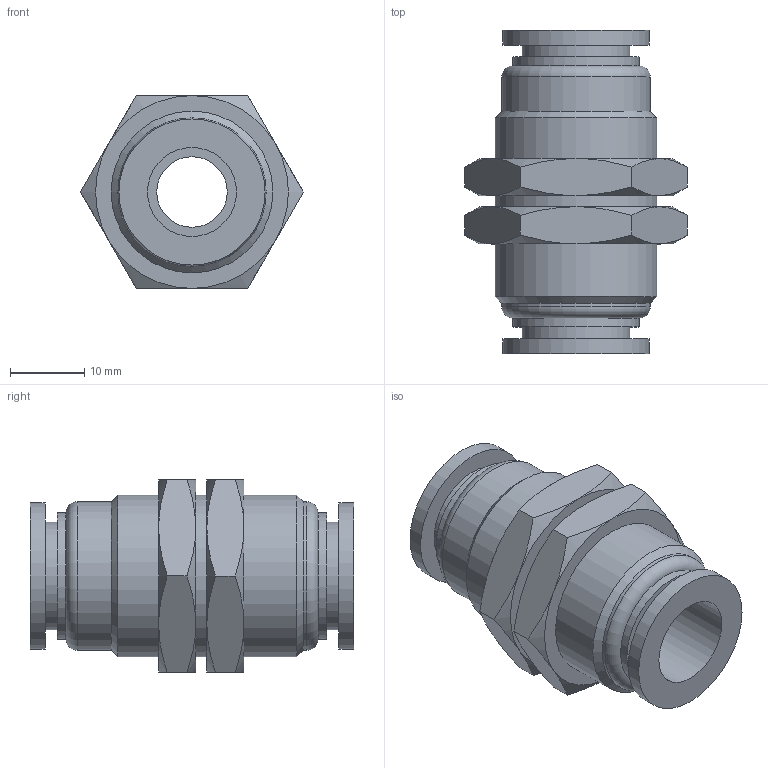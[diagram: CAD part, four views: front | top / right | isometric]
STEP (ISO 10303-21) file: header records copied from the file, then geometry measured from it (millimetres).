
FILE_DESCRIPTION(/* description */ (''),/* implementation_level */ '2;1');
FILE_NAME(/* name */ 'S:\_Tecnico\ArchivioUT\_Disegni3D ingombri\DISEGNI 3D per ingombri\RP\RP 60\RP600012.stp',/* time_stamp */ '2019-07-30T11:47:46+02:00',/* author */ ('ufficiotecnico3'),/* organization */ (''),/* preprocessor_version */ 'ST-DEVELOPER v18',/* originating_system */ 'Autodesk Inventor 2020',/* authorisation */ '');
FILE_SCHEMA (('AUTOMOTIVE_DESIGN { 1 0 10303 214 3 1 1 }'));
Length unit declared in the file: millimetre
Products named in the file (1): RP600012
Bounding box: 30.02 x 43.6 x 26 mm (x, y, z)
Volume: 11548.4 mm3; surface area: 6401.1 mm2
Topology: 1 solids, 1 shells, 66 faces, 158 edges, 104 vertices
Faces by surface type: cone 26, plane 24, cylinder 14, torus 2
Full cylindrical faces by diameter (mm): 9.5 x1, 12 x2, 14.5 x2, 17 x2, 19.7 x2, 20 x2, 21.8 x3
Entity records: 1949 total; most frequent: CARTESIAN_POINT 425, DIRECTION 326, ORIENTED_EDGE 316, EDGE_CURVE 158, AXIS2_PLACEMENT_3D 149, VERTEX_POINT 104, CIRCLE 82, EDGE_LOOP 78
